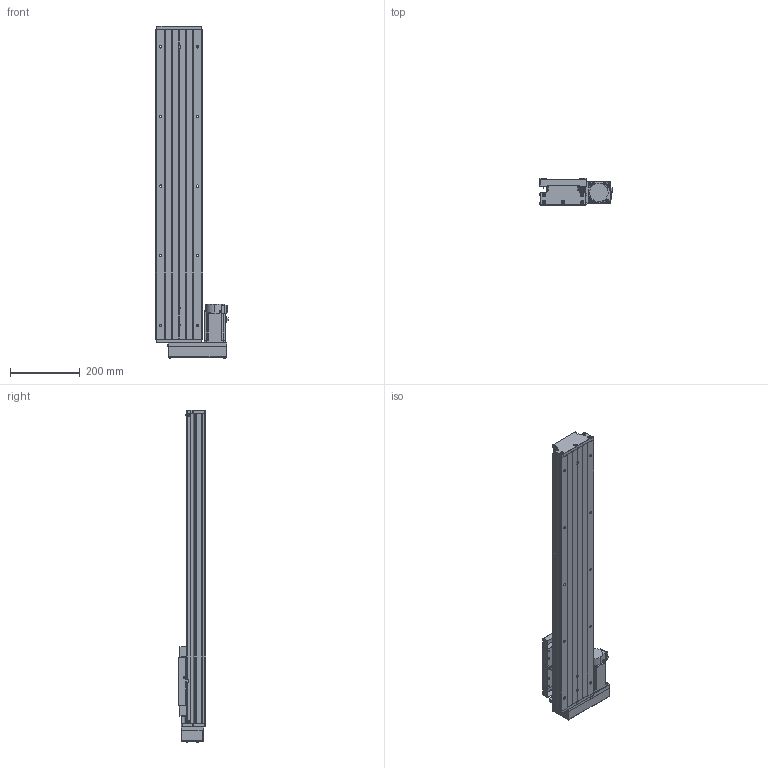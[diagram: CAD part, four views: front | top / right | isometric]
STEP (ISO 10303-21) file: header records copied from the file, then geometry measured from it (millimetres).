
FILE_DESCRIPTION (( 'STEP AP203' ), '1' );
FILE_NAME ('GTH14-650-BR-M40-C4.step', '2023-06-30T08:55:07', ( '微软用户' ), ( '微软中国' ), 'SwSTEP 2.0', 'SolidWorks 2020', '' );
FILE_SCHEMA (( 'CONFIG_CONTROL_DESIGN' ));
Length unit declared in the file: millimetre
Products named in the file (19): CTHA60-017; す晦芛蹟隊 M3℅5; GTH14-001_650; EE_SX911P_R; HG-KN43J-S100; GTH14-002_GTH14-002; CTHA60-016; GBT 70.2-M4¡Á35_M4¡Á35; GTH14-004; GBT 70.1-M3℅5; GTH14-015-2_CTHA86-015-2; GTH14-005; GBT77-2000 M3×3; GTH14-033; GB1155-6X6; GTH14-031; GTH14-650-BR-M40-C4; GBT70.1 M5℅16; GBT 70.2-M3¡Á5_M3¡Á6
Assembly tree (58 placements, depth 2):
  GTH14-650-BR-M40-C4
    GTH14-001_650
    GTH14-002_GTH14-002
    GTH14-004
    GTH14-005
    GB1155-6X6  x2
    GBT70.1 M5℅16  x10
    CTHA60-017  x3
    EE_SX911P_R  x3
    CTHA60-016  x2
    GBT 70.1-M3℅5  x6
    GBT77-2000 M3×3  x6
    GTH14-031
    GBT 70.2-M3¡Á5_M3¡Á6  x8
    す晦芛蹟隊 M3℅5  x6
    HG-KN43J-S100
    GBT 70.2-M4¡Á35_M4¡Á35  x4
    GTH14-015-2_CTHA86-015-2
    GTH14-033
Bounding box: 209.3 x 78 x 954.2 mm (x, y, z)
Volume: 5286360.3 mm3; surface area: 890121.8 mm2
Topology: 61 solids, 61 shells, 2453 faces, 5833 edges, 3594 vertices
Faces by surface type: plane 1307, cylinder 656, cone 314, torus 124, sphere 32, bspline 20
Entity records: 44158 total; most frequent: CARTESIAN_POINT 9857, DIRECTION 6489, ORIENTED_EDGE 6356, EDGE_CURVE 3178, AXIS2_PLACEMENT_3D 2218, VECTOR 2053, LINE 2053, VERTEX_POINT 2012
